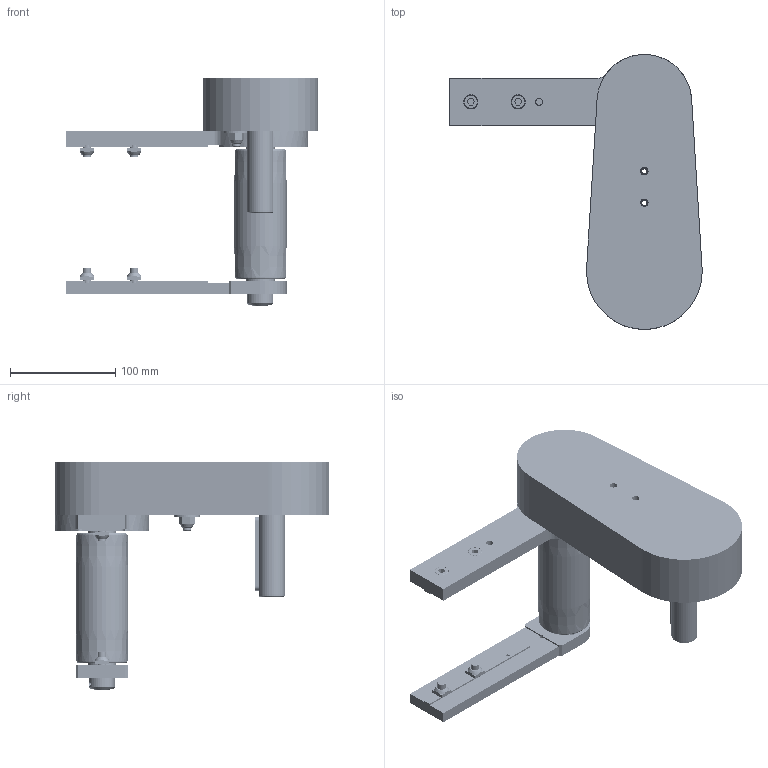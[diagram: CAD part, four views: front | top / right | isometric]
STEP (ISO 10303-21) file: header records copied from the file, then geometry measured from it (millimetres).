
FILE_DESCRIPTION (( 'STEP AP203' ), '1' );
FILE_NAME ('084.050.KTC.49.100.STEP', '2019-07-29T13:21:59', ( '' ), ( '' ), 'SwSTEP 2.0', 'SolidWorks 2018', '' );
FILE_SCHEMA (( 'CONFIG_CONTROL_DESIGN' ));
Length unit declared in the file: millimetre
Products named in the file (24): 084.813.001; 084.301.000 VITI ALUSIC_084.301.003; 084.802.017_084.802.017; 084.802.034_084.802.034; 084.810.005; 084.810.010; 084.810.001; 084.807.001_084.807.001; RONDELLE FASCIA LARGA UNI 6593_8.4x24 UNI 6593; 084.811.004; 084.813.005; 084.050.KTC.49.100; CUSCINETTI A SFERE_608-2RS; 084.803.012; 084.807.002_084.807.002; 084.803.014; Circlip DIN 471 - 8 x 0.8_Circlip DIN 471 - 8 x 0.8; 084.809.003; DADI ESAGONALI AUTOBLOCCANTI UNI 7473 INOX_M8 UNI 7473 INOX; 084.302.000 DADI ALUSIC 13x13_084.302.004; 084.815.101_Default<A macchina>; 084.810.004; 084.809.002; CHIAVETTE_A 8x7x70 UNI 6604-69
Assembly tree (32 placements, depth 3):
  084.050.KTC.49.100
    084.813.005
    084.815.101_Default<A macchina>
    084.811.004
    084.813.001
    084.810.001  x2
    084.802.034_084.802.034
    084.802.017_084.802.017
    084.807.001_084.807.001
    084.807.002_084.807.002
    084.803.014  x2
    084.803.012
    084.809.002
    084.809.003
    084.810.005
      084.810.010
      084.810.004
      CUSCINETTI A SFERE_608-2RS  x2
      Circlip DIN 471 - 8 x 0.8_Circlip DIN 471 - 8 x 0.8
      RONDELLE FASCIA LARGA UNI 6593_8.4x24 UNI 6593
      DADI ESAGONALI AUTOBLOCCANTI UNI 7473 INOX_M8 UNI 7473 INOX
    CHIAVETTE_A 8x7x70 UNI 6604-69
    084.301.000 VITI ALUSIC_084.301.003  x4
    084.302.000 DADI ALUSIC 13x13_084.302.004  x4
Bounding box: 240 x 261.5 x 216 mm (x, y, z)
Volume: 751160.7 mm3; surface area: 410825.1 mm2
Topology: 61 solids, 62 shells, 2850 faces, 6723 edges, 4297 vertices
Faces by surface type: cylinder 1397, plane 718, bspline 468, cone 172, torus 86, sphere 9
Entity records: 81161 total; most frequent: CARTESIAN_POINT 18469, DIRECTION 13631, ORIENTED_EDGE 11844, EDGE_CURVE 5922, AXIS2_PLACEMENT_3D 5756, VERTEX_POINT 3774, CIRCLE 3640, EDGE_LOOP 3100
